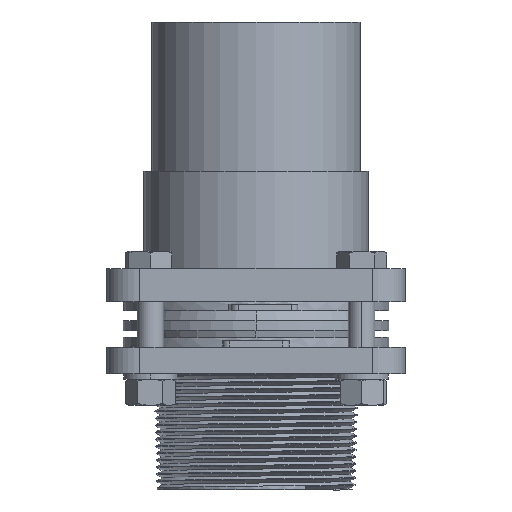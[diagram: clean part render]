
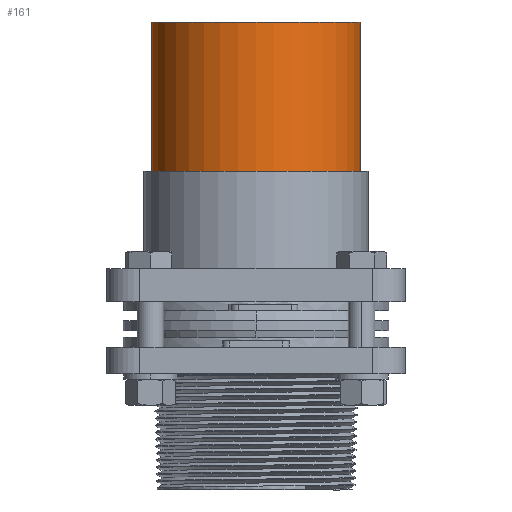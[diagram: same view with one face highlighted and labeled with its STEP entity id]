
A CAD part, front view. The second image highlights one B-rep face of the part: STEP entity #161.
In plain terms, the highlighted cylindrical face has radius 31.5 mm (diameter 63 mm), a partial arc.
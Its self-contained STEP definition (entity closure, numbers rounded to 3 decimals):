
#35 = EDGE_CURVE ( 'NONE', #18185, #18188, #630, .T. ) ;
#38 = EDGE_CURVE ( 'NONE', #18207, #18188, #9340, .T. ) ;
#40 = EDGE_CURVE ( 'NONE', #18203, #18207, #604, .T. ) ;
#46 = EDGE_CURVE ( 'NONE', #18203, #18185, #9369, .T. ) ;
#161 = ADVANCED_FACE ( 'NONE', ( #23598 ), #23601, .T. ) ;
#451 = ORIENTED_EDGE ( 'NONE', *, *, #38, .F. ) ;
#452 = ORIENTED_EDGE ( 'NONE', *, *, #40, .F. ) ;
#453 = ORIENTED_EDGE ( 'NONE', *, *, #46, .T. ) ;
#454 = ORIENTED_EDGE ( 'NONE', *, *, #35, .T. ) ;
#600 = VECTOR ( 'NONE', #9371, 1000. ) ;
#604 = CIRCLE ( 'NONE', #635, 31.5 ) ;
#612 = VECTOR ( 'NONE', #9347, 1000. ) ;
#630 = CIRCLE ( 'NONE', #631, 31.5 ) ;
#631 = AXIS2_PLACEMENT_3D ( 'NONE', #9337, #9338, #9339 ) ;
#635 = AXIS2_PLACEMENT_3D ( 'NONE', #9351, #9352, #9353 ) ;
#6771 = CARTESIAN_POINT ( 'NONE',  ( 31.5, 0., 0. ) ) ;
#6776 = CARTESIAN_POINT ( 'NONE',  ( -31.5, 0., 75. ) ) ;
#6779 = CARTESIAN_POINT ( 'NONE',  ( -31.5, 0., 0. ) ) ;
#6783 = CARTESIAN_POINT ( 'NONE',  ( 31.5, 0., 75. ) ) ;
#9337 = CARTESIAN_POINT ( 'NONE',  ( 0., 0., 0. ) ) ;
#9338 = DIRECTION ( 'NONE',  ( 0., 0., 1. ) ) ;
#9339 = DIRECTION ( 'NONE',  ( 1., 0., 0. ) ) ;
#9340 = LINE ( 'NONE', #9346, #612 ) ;
#9346 = CARTESIAN_POINT ( 'NONE',  ( 31.5, 0., 75. ) ) ;
#9347 = DIRECTION ( 'NONE',  ( 0., 0., -1. ) ) ;
#9351 = CARTESIAN_POINT ( 'NONE',  ( 0., 0., 75. ) ) ;
#9352 = DIRECTION ( 'NONE',  ( 0., 0., 1. ) ) ;
#9353 = DIRECTION ( 'NONE',  ( 1., 0., 0. ) ) ;
#9369 = LINE ( 'NONE', #9370, #600 ) ;
#9370 = CARTESIAN_POINT ( 'NONE',  ( -31.5, 0., 75. ) ) ;
#9371 = DIRECTION ( 'NONE',  ( 0., 0., -1. ) ) ;
#18185 = VERTEX_POINT ( 'NONE', #6779 ) ;
#18188 = VERTEX_POINT ( 'NONE', #6771 ) ;
#18203 = VERTEX_POINT ( 'NONE', #6776 ) ;
#18207 = VERTEX_POINT ( 'NONE', #6783 ) ;
#23587 = DIRECTION ( 'NONE',  ( 0., 0., -1. ) ) ;
#23598 = FACE_OUTER_BOUND ( 'NONE', #24278, .T. ) ;
#23599 = CARTESIAN_POINT ( 'NONE',  ( 0., 0., 75. ) ) ;
#23601 = CYLINDRICAL_SURFACE ( 'NONE', #24694, 31.5 ) ;
#23602 = DIRECTION ( 'NONE',  ( -1., 0., 0. ) ) ;
#24278 = EDGE_LOOP ( 'NONE', ( #451, #452, #453, #454 ) ) ;
#24694 = AXIS2_PLACEMENT_3D ( 'NONE', #23599, #23587, #23602 ) ;
